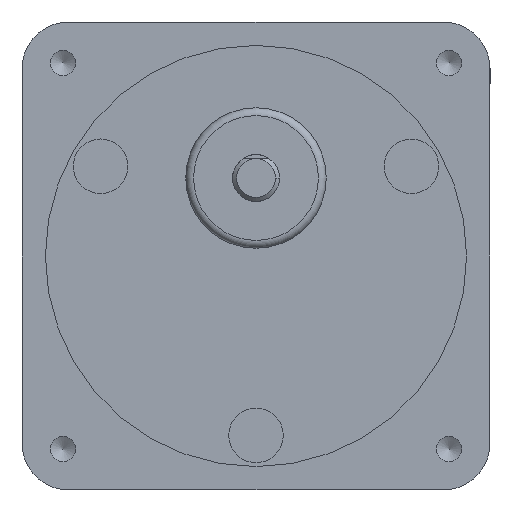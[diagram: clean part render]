
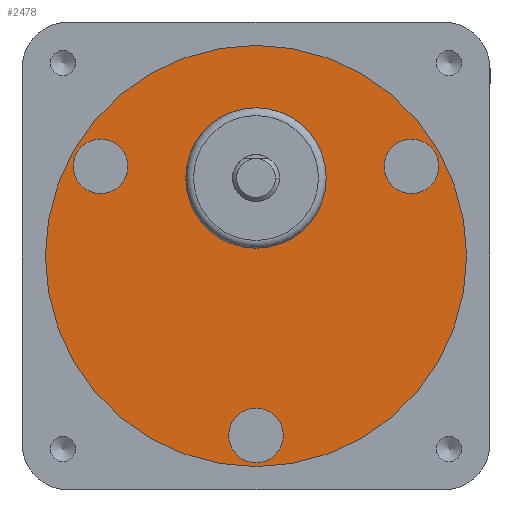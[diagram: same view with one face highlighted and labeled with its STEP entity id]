
A CAD part, front view. The second image highlights one B-rep face of the part: STEP entity #2478.
In plain terms, the highlighted planar face has unit normal (0, -1, 0).
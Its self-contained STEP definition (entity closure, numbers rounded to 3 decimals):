
#35=FACE_BOUND('',#436,.T.);
#36=FACE_BOUND('',#437,.T.);
#37=FACE_BOUND('',#438,.T.);
#38=FACE_BOUND('',#439,.T.);
#106=PLANE('',#2786);
#266=FACE_OUTER_BOUND('',#435,.T.);
#435=EDGE_LOOP('',(#1868));
#436=EDGE_LOOP('',(#1869));
#437=EDGE_LOOP('',(#1870));
#438=EDGE_LOOP('',(#1871));
#439=EDGE_LOOP('',(#1872));
#585=CIRCLE('',#2686,3.5);
#587=CIRCLE('',#2690,3.5);
#589=CIRCLE('',#2694,3.5);
#638=CIRCLE('',#2785,27.);
#639=CIRCLE('',#2787,9.);
#1109=VERTEX_POINT('',#3852);
#1111=VERTEX_POINT('',#3859);
#1113=VERTEX_POINT('',#3866);
#1174=VERTEX_POINT('',#4060);
#1175=VERTEX_POINT('',#4064);
#1339=EDGE_CURVE('',#1109,#1109,#585,.T.);
#1342=EDGE_CURVE('',#1111,#1111,#587,.T.);
#1345=EDGE_CURVE('',#1113,#1113,#589,.T.);
#1437=EDGE_CURVE('',#1174,#1174,#638,.T.);
#1438=EDGE_CURVE('',#1175,#1175,#639,.T.);
#1868=ORIENTED_EDGE('',*,*,#1437,.T.);
#1869=ORIENTED_EDGE('',*,*,#1339,.T.);
#1870=ORIENTED_EDGE('',*,*,#1342,.T.);
#1871=ORIENTED_EDGE('',*,*,#1345,.T.);
#1872=ORIENTED_EDGE('',*,*,#1438,.F.);
#2478=ADVANCED_FACE('',(#266,#35,#36,#37,#38),#106,.F.);
#2686=AXIS2_PLACEMENT_3D('',#3853,#3019,#3020);
#2690=AXIS2_PLACEMENT_3D('',#3860,#3028,#3029);
#2694=AXIS2_PLACEMENT_3D('',#3867,#3037,#3038);
#2785=AXIS2_PLACEMENT_3D('',#4062,#3262,#3263);
#2786=AXIS2_PLACEMENT_3D('',#4063,#3264,#3265);
#2787=AXIS2_PLACEMENT_3D('',#4065,#3266,#3267);
#3019=DIRECTION('center_axis',(0.,1.,0.));
#3020=DIRECTION('ref_axis',(0.5,0.,-0.866));
#3028=DIRECTION('center_axis',(0.,1.,0.));
#3029=DIRECTION('ref_axis',(0.5,0.,0.866));
#3037=DIRECTION('center_axis',(0.,1.,0.));
#3038=DIRECTION('ref_axis',(-1.,0.,0.));
#3262=DIRECTION('center_axis',(0.,-1.,0.));
#3263=DIRECTION('ref_axis',(-1.,0.,0.));
#3264=DIRECTION('center_axis',(0.,1.,0.));
#3265=DIRECTION('ref_axis',(0.,0.,1.));
#3266=DIRECTION('center_axis',(0.,-1.,0.));
#3267=DIRECTION('ref_axis',(-1.,0.,0.));
#3852=CARTESIAN_POINT('',(18.169,0.5,14.531));
#3853=CARTESIAN_POINT('Origin',(19.919,0.5,11.5));
#3859=CARTESIAN_POINT('',(-21.669,0.5,8.469));
#3860=CARTESIAN_POINT('Origin',(-19.919,0.5,11.5));
#3866=CARTESIAN_POINT('',(3.5,0.5,-23.));
#3867=CARTESIAN_POINT('Origin',(0.,0.5,-23.));
#4060=CARTESIAN_POINT('',(27.,0.5,0.));
#4062=CARTESIAN_POINT('Origin',(0.,0.5,0.));
#4063=CARTESIAN_POINT('Origin',(0.,0.5,0.));
#4064=CARTESIAN_POINT('',(9.,0.5,10.));
#4065=CARTESIAN_POINT('Origin',(0.,0.5,10.));
